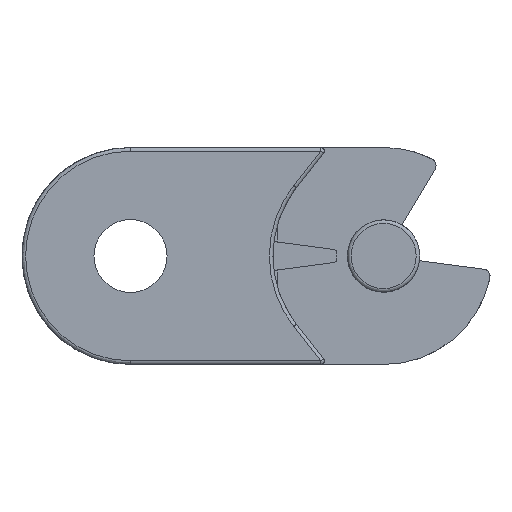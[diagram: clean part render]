
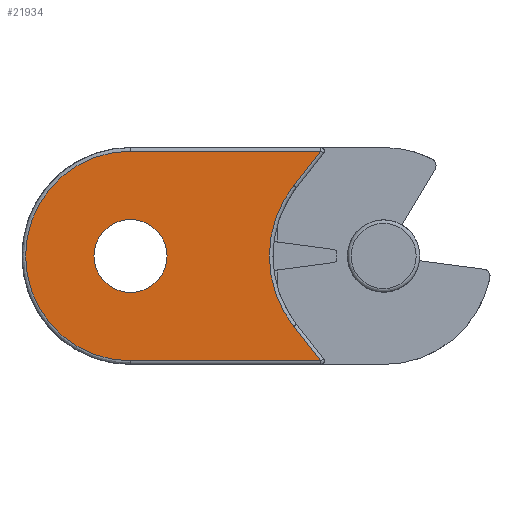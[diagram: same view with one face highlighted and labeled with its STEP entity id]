
A CAD part, left-side view. The second image highlights one B-rep face of the part: STEP entity #21934.
In plain terms, the highlighted free-form (B-spline) face has degree [1, 1] with [2, 2] control points.
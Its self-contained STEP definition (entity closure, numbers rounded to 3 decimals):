
#21866=CARTESIAN_POINT('',(-102.617,-6.606,-66.058));
#21867=CARTESIAN_POINT('',(-58.059,-2.458,-66.058));
#21868=CARTESIAN_POINT('',(-99.36,-41.59,-66.058));
#21869=CARTESIAN_POINT('',(-54.802,-37.442,-66.058));
#21870=B_SPLINE_SURFACE_WITH_KNOTS('',1,1,((#21866,#21868),(#21867,#21869)),.UNSPECIFIED.,.F.,.F.,.U.,(2,2),(2,2),(0.0,44.751),(0.0,35.135),.UNSPECIFIED.);
#21871=CARTESIAN_POINT('',(-57.698,-35.212,-66.058));
#21872=VERTEX_POINT('',#21871);
#21873=CARTESIAN_POINT('',(-83.877,-37.649,-66.058));
#21874=VERTEX_POINT('',#21873);
#21875=CARTESIAN_POINT('',(-57.698,-35.212,-66.058));
#21876=DIRECTION('',(-0.996,-0.093,0.));
#21877=VECTOR('',#21876,26.293);
#21878=LINE('',#21875,#21877);
#21879=EDGE_CURVE('',#21872,#21874,#21878,.T.);
#21880=ORIENTED_EDGE('',*,*,#21879,.T.);
#21881=CARTESIAN_POINT('',(-86.566,-8.774,-66.058));
#21882=VERTEX_POINT('',#21881);
#21883=CARTESIAN_POINT('',(-85.221,-23.211,-66.058));
#21884=DIRECTION('',(0.,0.,-1.));
#21885=DIRECTION('',(-0.996,-0.093,0.));
#21886=AXIS2_PLACEMENT_3D('',#21883,#21884,#21885);
#21887=CIRCLE('',#21886,14.5);
#21888=EDGE_CURVE('',#21874,#21882,#21887,.T.);
#21889=ORIENTED_EDGE('',*,*,#21888,.T.);
#21890=CARTESIAN_POINT('',(-60.386,-6.336,-66.058));
#21891=VERTEX_POINT('',#21890);
#21892=CARTESIAN_POINT('',(-86.566,-8.774,-66.058));
#21893=DIRECTION('',(0.996,0.093,0.));
#21894=VECTOR('',#21893,26.293);
#21895=LINE('',#21892,#21894);
#21896=EDGE_CURVE('',#21882,#21891,#21895,.T.);
#21897=ORIENTED_EDGE('',*,*,#21896,.T.);
#21898=CARTESIAN_POINT('',(-63.654,-11.41,-66.058));
#21899=VERTEX_POINT('',#21898);
#21900=CARTESIAN_POINT('',(-60.386,-6.336,-66.058));
#21901=DIRECTION('',(-0.542,-0.841,0.0));
#21902=VECTOR('',#21901,6.035);
#21903=LINE('',#21900,#21902);
#21904=EDGE_CURVE('',#21891,#21899,#21903,.T.);
#21905=ORIENTED_EDGE('',*,*,#21904,.T.);
#21906=CARTESIAN_POINT('',(-61.847,-30.829,-66.058));
#21907=VERTEX_POINT('',#21906);
#21908=CARTESIAN_POINT('',(-50.372,-19.967,-66.058));
#21909=DIRECTION('',(0.,0.,1.0));
#21910=DIRECTION('',(-0.996,-0.093,0.));
#21911=AXIS2_PLACEMENT_3D('',#21908,#21909,#21910);
#21912=CIRCLE('',#21911,15.8);
#21913=EDGE_CURVE('',#21899,#21907,#21912,.T.);
#21914=ORIENTED_EDGE('',*,*,#21913,.T.);
#21915=CARTESIAN_POINT('',(-61.847,-30.829,-66.058));
#21916=DIRECTION('',(0.687,-0.726,0.0));
#21917=VECTOR('',#21916,6.035);
#21918=LINE('',#21915,#21917);
#21919=EDGE_CURVE('',#21907,#21872,#21918,.T.);
#21920=ORIENTED_EDGE('',*,*,#21919,.T.);
#21921=EDGE_LOOP('',(#21880,#21889,#21897,#21905,#21914,#21920));
#21922=FACE_OUTER_BOUND('',#21921,.T.);
#21923=CARTESIAN_POINT('',(-80.193,-22.743,-66.058));
#21924=VERTEX_POINT('',#21923);
#21925=CARTESIAN_POINT('',(-85.221,-23.211,-66.058));
#21926=DIRECTION('',(0.,0.,-1.));
#21927=DIRECTION('',(-0.996,-0.093,0.));
#21928=AXIS2_PLACEMENT_3D('',#21925,#21926,#21927);
#21929=CIRCLE('',#21928,5.05);
#21930=EDGE_CURVE('',#21924,#21924,#21929,.T.);
#21931=ORIENTED_EDGE('',*,*,#21930,.F.);
#21932=EDGE_LOOP('',(#21931));
#21933=FACE_BOUND('',#21932,.T.);
#21934=ADVANCED_FACE('',(#21922,#21933),#21870,.T.);
